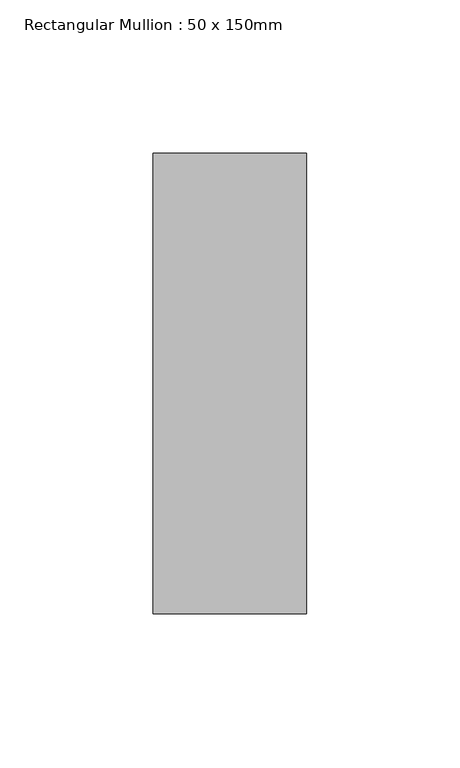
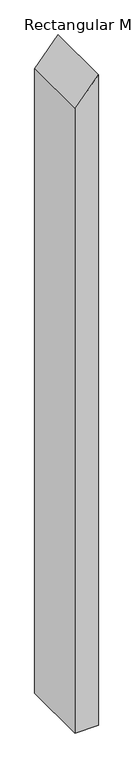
"""IFC4 building model written with IfcOpenShell, lengths in millimetres: member geometry, Rectangular Mullion : 50 x 150mm."""

from ifc_helpers import new_model, si_unit, frame, origin, place, context, project, spatial, polyline, outline, extrude, source, transform, mapped, element, save


def rectangular_mullion_50_x_150mm_d95bd20a(model_context):
    return source(origin(), model_context, "Body", "SweptSolid", [
        extrude(outline(polyline([(0.0, 0.0), (-59.6838104, -50.0), (-1476.2916639, -50.0), (-1476.2916639, 0.0), (0.0, 0.0)])), frame((0.0, -75.0, 0.0), z_axis=(0.0, 1.0, 0.0), x_axis=(0.0, 0.0, 1.0)), (0.0, 0.0, 1.0), 150.0),
    ])


if __name__ == "__main__":
    model = new_model("IFC4")
    model_context = context("Model", 3, world=origin())
    ifc_project = project(units=[si_unit("LENGTHUNIT", "METRE", prefix="MILLI")], contexts=[model_context])
    site = spatial("IfcSite", under=ifc_project)
    building = spatial("IfcBuilding", under=site)
    placement = place(None, origin())
    rectangular_mullion_50_x_150mm_shape = rectangular_mullion_50_x_150mm_d95bd20a(model_context)
    element("IfcMember", 1, ObjectType="Rectangular Mullion : 50 x 150mm", at=placement, inside=building, context=model_context, shape_type="MappedRepresentation", body=[
        mapped(rectangular_mullion_50_x_150mm_shape, transform((0.0, 0.0, 0.0), x_axis=(1.0, 0.0, 0.0), y_axis=(0.0, 1.0, 0.0), z_axis=(0.0, 0.0, 1.0))),
    ])
    save(model, "model.ifc")
